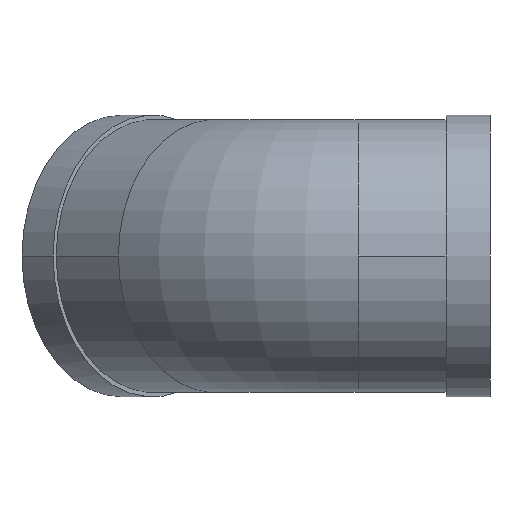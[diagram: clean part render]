
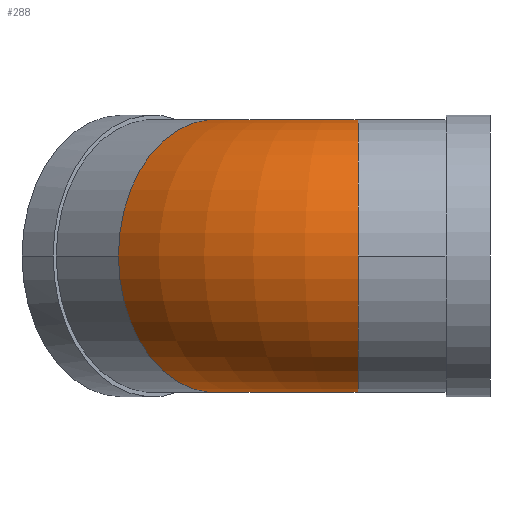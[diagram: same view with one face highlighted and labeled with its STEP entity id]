
A CAD part, front view. The second image highlights one B-rep face of the part: STEP entity #288.
In plain terms, the highlighted toroidal (fillet/blend) face has major radius 23 mm and minor radius 15.5 mm.
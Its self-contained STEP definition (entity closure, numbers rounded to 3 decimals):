
#44 = CARTESIAN_POINT ( 'NONE',  ( -15., -15.5, 0. ) ) ;
#54 = CIRCLE ( 'NONE', #107, 7.63 ) ;
#68 = VERTEX_POINT ( 'NONE', #351 ) ;
#90 = DIRECTION ( 'NONE',  ( -1., 0., 0. ) ) ;
#107 = AXIS2_PLACEMENT_3D ( 'NONE', #752, #350, #213 ) ;
#134 = CARTESIAN_POINT ( 'NONE',  ( -15., 0., 0. ) ) ;
#142 = CIRCLE ( 'NONE', #284, 15.5 ) ;
#156 = FACE_OUTER_BOUND ( 'NONE', #715, .T. ) ;
#164 = DIRECTION ( 'NONE',  ( -0.707, 0.707, 0. ) ) ;
#177 = DIRECTION ( 'NONE',  ( 0., -1., 0. ) ) ;
#205 = VERTEX_POINT ( 'NONE', #44 ) ;
#208 = DIRECTION ( 'NONE',  ( 0., 0., -1. ) ) ;
#211 = CIRCLE ( 'NONE', #546, 15.5 ) ;
#213 = DIRECTION ( 'NONE',  ( 0., 1., 0. ) ) ;
#227 = CIRCLE ( 'NONE', #705, 15.5 ) ;
#257 = VERTEX_POINT ( 'NONE', #848 ) ;
#266 = DIRECTION ( 'NONE',  ( -1., 0., 0. ) ) ;
#284 = AXIS2_PLACEMENT_3D ( 'NONE', #781, #90, #177 ) ;
#288 = ADVANCED_FACE ( 'NONE', ( #156 ), #486, .T. ) ;
#309 = ORIENTED_EDGE ( 'NONE', *, *, #478, .F. ) ;
#313 = VERTEX_POINT ( 'NONE', #468 ) ;
#314 = EDGE_CURVE ( 'NONE', #205, #313, #211, .T. ) ;
#315 = CIRCLE ( 'NONE', #353, 15.5 ) ;
#330 = DIRECTION ( 'NONE',  ( -0.707, -0.707, 0. ) ) ;
#350 = DIRECTION ( 'NONE',  ( 0., 0., 1. ) ) ;
#351 = CARTESIAN_POINT ( 'NONE',  ( -15., 15.37, -2. ) ) ;
#353 = AXIS2_PLACEMENT_3D ( 'NONE', #775, #164, #363 ) ;
#358 = CARTESIAN_POINT ( 'NONE',  ( -15., 23., -2. ) ) ;
#363 = DIRECTION ( 'NONE',  ( -0.707, -0.707, 0. ) ) ;
#373 = CARTESIAN_POINT ( 'NONE',  ( -42.224, -4.224, 0. ) ) ;
#405 = VERTEX_POINT ( 'NONE', #726 ) ;
#432 = EDGE_CURVE ( 'NONE', #257, #313, #54, .T. ) ;
#455 = ORIENTED_EDGE ( 'NONE', *, *, #432, .F. ) ;
#463 = CARTESIAN_POINT ( 'NONE',  ( -31.263, 6.737, 0. ) ) ;
#468 = CARTESIAN_POINT ( 'NONE',  ( -15., 15.37, 2. ) ) ;
#478 = EDGE_CURVE ( 'NONE', #68, #405, #685, .T. ) ;
#483 = DIRECTION ( 'NONE',  ( 0., -1., 0. ) ) ;
#486 = TOROIDAL_SURFACE ( 'NONE', #872, 23., 15.5 ) ;
#524 = DIRECTION ( 'NONE',  ( 0., -1., 0. ) ) ;
#544 = DIRECTION ( 'NONE',  ( -1., 0., 0. ) ) ;
#546 = AXIS2_PLACEMENT_3D ( 'NONE', #134, #544, #524 ) ;
#602 = DIRECTION ( 'NONE',  ( 0., 0., -1. ) ) ;
#613 = EDGE_CURVE ( 'NONE', #405, #641, #315, .T. ) ;
#641 = VERTEX_POINT ( 'NONE', #373 ) ;
#681 = ORIENTED_EDGE ( 'NONE', *, *, #314, .T. ) ;
#685 = CIRCLE ( 'NONE', #749, 7.63 ) ;
#688 = EDGE_CURVE ( 'NONE', #68, #205, #142, .T. ) ;
#705 = AXIS2_PLACEMENT_3D ( 'NONE', #463, #810, #330 ) ;
#715 = EDGE_LOOP ( 'NONE', ( #455, #787, #779, #309, #878, #681 ) ) ;
#726 = CARTESIAN_POINT ( 'NONE',  ( -20.395, 17.605, -2. ) ) ;
#749 = AXIS2_PLACEMENT_3D ( 'NONE', #358, #208, #483 ) ;
#752 = CARTESIAN_POINT ( 'NONE',  ( -15., 23., 2. ) ) ;
#775 = CARTESIAN_POINT ( 'NONE',  ( -31.263, 6.737, 0. ) ) ;
#779 = ORIENTED_EDGE ( 'NONE', *, *, #613, .F. ) ;
#781 = CARTESIAN_POINT ( 'NONE',  ( -15., 0., 0. ) ) ;
#787 = ORIENTED_EDGE ( 'NONE', *, *, #805, .F. ) ;
#805 = EDGE_CURVE ( 'NONE', #641, #257, #227, .T. ) ;
#810 = DIRECTION ( 'NONE',  ( -0.707, 0.707, 0. ) ) ;
#848 = CARTESIAN_POINT ( 'NONE',  ( -20.395, 17.605, 2. ) ) ;
#872 = AXIS2_PLACEMENT_3D ( 'NONE', #876, #602, #266 ) ;
#876 = CARTESIAN_POINT ( 'NONE',  ( -15., 23., 0. ) ) ;
#878 = ORIENTED_EDGE ( 'NONE', *, *, #688, .T. ) ;
